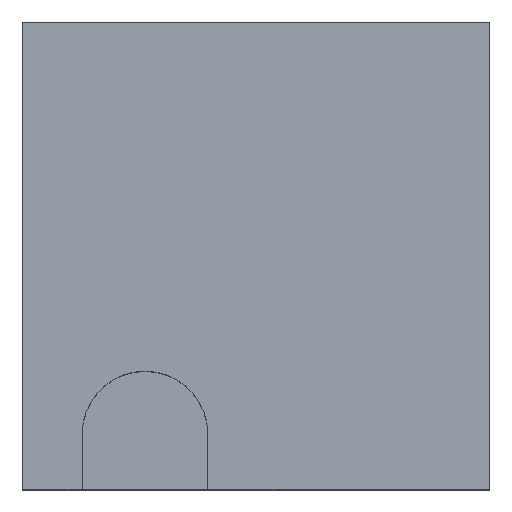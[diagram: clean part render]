
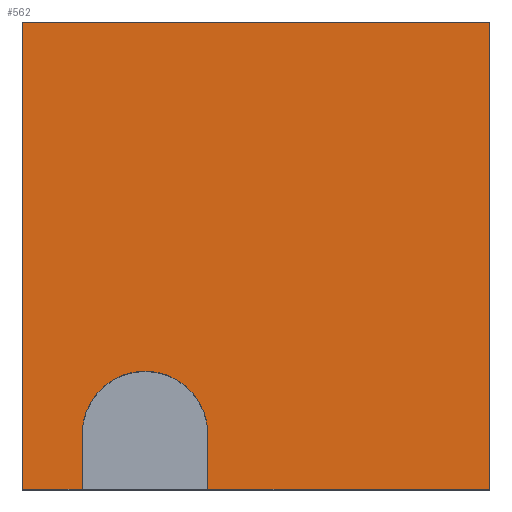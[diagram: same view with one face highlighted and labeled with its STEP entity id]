
A CAD part, top view. The second image highlights one B-rep face of the part: STEP entity #562.
In plain terms, the highlighted planar face has unit normal (0, 0, 1).
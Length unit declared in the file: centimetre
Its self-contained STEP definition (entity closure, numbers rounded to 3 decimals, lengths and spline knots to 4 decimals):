
#3 = EDGE_CURVE ( 'NONE', #370, #669, #556, .T. ) ;
#10 = VERTEX_POINT ( 'NONE', #15 ) ;
#14 = ORIENTED_EDGE ( 'NONE', *, *, #308, .F. ) ;
#15 = CARTESIAN_POINT ( 'NONE',  ( 396.8691, 118.1825, 1000. ) ) ;
#43 = ORIENTED_EDGE ( 'NONE', *, *, #386, .T. ) ;
#60 = EDGE_LOOP ( 'NONE', ( #14, #563, #390, #419, #695, #43, #262, #391 ) ) ;
#63 = AXIS2_PLACEMENT_3D ( 'NONE', #235, #279, #229 ) ;
#64 = EDGE_CURVE ( 'NONE', #10, #149, #317, .T. ) ;
#78 = CARTESIAN_POINT ( 'NONE',  ( 0., 0., 1000. ) ) ;
#134 = DIRECTION ( 'NONE',  ( 1., 0., 0. ) ) ;
#146 = CARTESIAN_POINT ( 'NONE',  ( 127.9298, 0., 1000. ) ) ;
#147 = VECTOR ( 'NONE', #461, 100. ) ;
#149 = VERTEX_POINT ( 'NONE', #306 ) ;
#150 = LINE ( 'NONE', #78, #471 ) ;
#166 = EDGE_CURVE ( 'NONE', #370, #10, #255, .T. ) ;
#176 = DIRECTION ( 'NONE',  ( 1., 0., 0. ) ) ;
#181 = DIRECTION ( 'NONE',  ( 0., 1., 0. ) ) ;
#182 = LINE ( 'NONE', #470, #490 ) ;
#204 = DIRECTION ( 'NONE',  ( 0., -1., 0. ) ) ;
#223 = VERTEX_POINT ( 'NONE', #146 ) ;
#229 = DIRECTION ( 'NONE',  ( -1., 0., 0. ) ) ;
#235 = CARTESIAN_POINT ( 'NONE',  ( 262.3994, 118.1825, 1000. ) ) ;
#242 = LINE ( 'NONE', #412, #147 ) ;
#250 = FACE_OUTER_BOUND ( 'NONE', #60, .T. ) ;
#255 = LINE ( 'NONE', #475, #502 ) ;
#260 = EDGE_CURVE ( 'NONE', #292, #223, #150, .T. ) ;
#262 = ORIENTED_EDGE ( 'NONE', *, *, #521, .T. ) ;
#279 = DIRECTION ( 'NONE',  ( 0., 0., 1. ) ) ;
#292 = VERTEX_POINT ( 'NONE', #578 ) ;
#300 = CARTESIAN_POINT ( 'NONE',  ( 127.9298, 0., 1000. ) ) ;
#304 = DIRECTION ( 'NONE',  ( 1., 0., 0. ) ) ;
#306 = CARTESIAN_POINT ( 'NONE',  ( 127.9298, 118.1825, 1000. ) ) ;
#308 = EDGE_CURVE ( 'NONE', #149, #223, #408, .T. ) ;
#317 = CIRCLE ( 'NONE', #63, 134.4697 ) ;
#320 = LINE ( 'NONE', #708, #512 ) ;
#325 = CARTESIAN_POINT ( 'NONE',  ( 1000., 1000., 1000. ) ) ;
#327 = EDGE_CURVE ( 'NONE', #669, #434, #242, .T. ) ;
#343 = CARTESIAN_POINT ( 'NONE',  ( 0., 0., 1000. ) ) ;
#349 = PLANE ( 'NONE',  #583 ) ;
#358 = DIRECTION ( 'NONE',  ( 0., 0., 1. ) ) ;
#370 = VERTEX_POINT ( 'NONE', #705 ) ;
#386 = EDGE_CURVE ( 'NONE', #434, #652, #320, .T. ) ;
#390 = ORIENTED_EDGE ( 'NONE', *, *, #166, .F. ) ;
#391 = ORIENTED_EDGE ( 'NONE', *, *, #260, .T. ) ;
#407 = DIRECTION ( 'NONE',  ( 0., -1., 0. ) ) ;
#408 = LINE ( 'NONE', #300, #616 ) ;
#412 = CARTESIAN_POINT ( 'NONE',  ( 1000., 1000., 1000. ) ) ;
#419 = ORIENTED_EDGE ( 'NONE', *, *, #3, .T. ) ;
#434 = VERTEX_POINT ( 'NONE', #325 ) ;
#461 = DIRECTION ( 'NONE',  ( 0., 1., 0. ) ) ;
#470 = CARTESIAN_POINT ( 'NONE',  ( 0., 1000., 1000. ) ) ;
#471 = VECTOR ( 'NONE', #304, 100. ) ;
#475 = CARTESIAN_POINT ( 'NONE',  ( 396.8691, 118.1825, 1000. ) ) ;
#484 = DIRECTION ( 'NONE',  ( -1., 0., 0. ) ) ;
#490 = VECTOR ( 'NONE', #407, 100. ) ;
#502 = VECTOR ( 'NONE', #181, 100. ) ;
#512 = VECTOR ( 'NONE', #484, 100. ) ;
#521 = EDGE_CURVE ( 'NONE', #652, #292, #182, .T. ) ;
#556 = LINE ( 'NONE', #343, #569 ) ;
#562 = ADVANCED_FACE ( 'NONE', ( #250 ), #349, .T. ) ;
#563 = ORIENTED_EDGE ( 'NONE', *, *, #64, .F. ) ;
#569 = VECTOR ( 'NONE', #176, 100. ) ;
#578 = CARTESIAN_POINT ( 'NONE',  ( 0., 0., 1000. ) ) ;
#583 = AXIS2_PLACEMENT_3D ( 'NONE', #586, #358, #134 ) ;
#586 = CARTESIAN_POINT ( 'NONE',  ( 0., 0., 1000. ) ) ;
#613 = CARTESIAN_POINT ( 'NONE',  ( 0., 1000., 1000. ) ) ;
#616 = VECTOR ( 'NONE', #204, 100. ) ;
#652 = VERTEX_POINT ( 'NONE', #613 ) ;
#659 = CARTESIAN_POINT ( 'NONE',  ( 1000., 0., 1000. ) ) ;
#669 = VERTEX_POINT ( 'NONE', #659 ) ;
#695 = ORIENTED_EDGE ( 'NONE', *, *, #327, .T. ) ;
#705 = CARTESIAN_POINT ( 'NONE',  ( 396.8691, 0., 1000. ) ) ;
#708 = CARTESIAN_POINT ( 'NONE',  ( 0., 1000., 1000. ) ) ;
